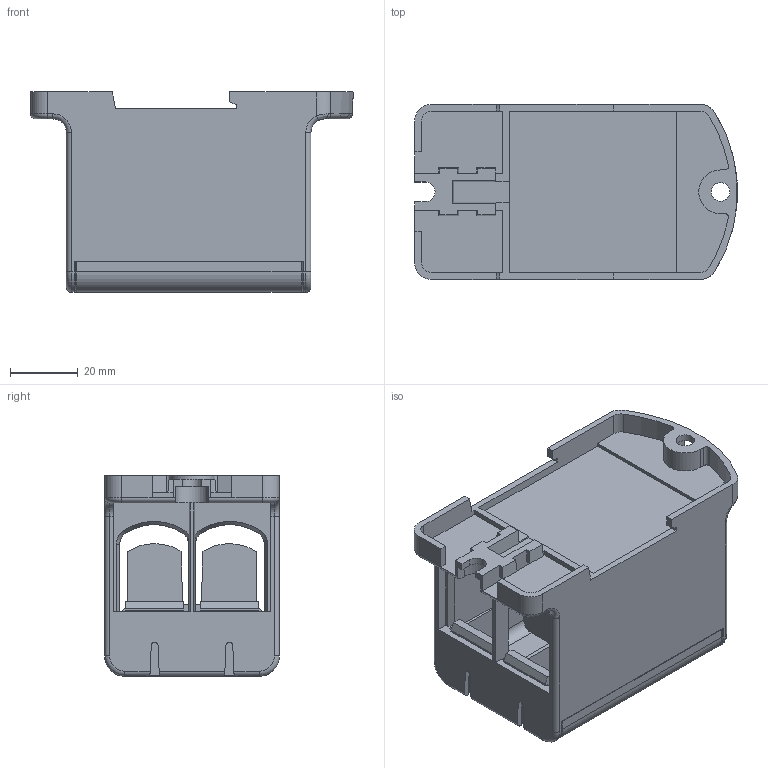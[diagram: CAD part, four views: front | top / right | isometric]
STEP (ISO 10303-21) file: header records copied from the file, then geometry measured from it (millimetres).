
FILE_DESCRIPTION((''),'2;1');
FILE_NAME('ASM000-68_ASM','2016-05-18T',('Administrator'),(''),'PRO/ENGINEER BY PARAMETRIC TECHNOLOGY CORPORATION, 2009360','PRO/ENGINEER BY PARAMETRIC TECHNOLOGY CORPORATION, 2009360','');
FILE_SCHEMA(('CONFIG_CONTROL_DESIGN'));
Length unit declared in the file: millimetre
Products named in the file (3): KE68-ZUO; K68-GAI; ASM000-68_ASM
Assembly tree (2 placements, depth 2):
  ASM000-68_ASM
    KE68-ZUO
    K68-GAI
Bounding box: 94.97 x 51.5 x 59 mm (x, y, z)
Volume: 45920.6 mm3; surface area: 49349.4 mm2
Topology: 2 solids, 2 shells, 385 faces, 1091 edges, 702 vertices
Faces by surface type: plane 241, cylinder 92, torus 30, cone 20, bspline 2
Entity records: 12669 total; most frequent: CARTESIAN_POINT 2529, ORIENTED_EDGE 2182, DIRECTION 2023, EDGE_CURVE 1091, VECTOR 803, LINE 803, VERTEX_POINT 702, AXIS2_PLACEMENT_3D 610
